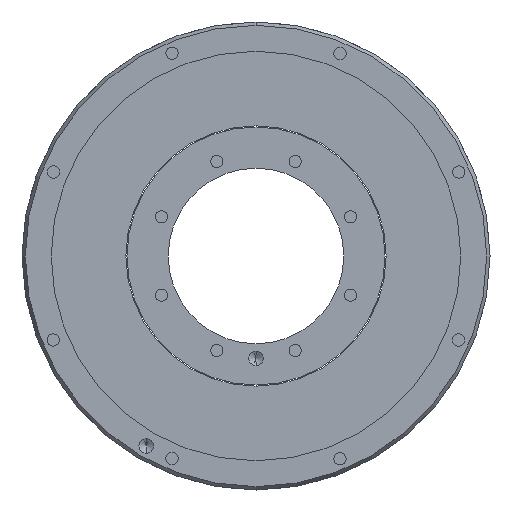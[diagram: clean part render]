
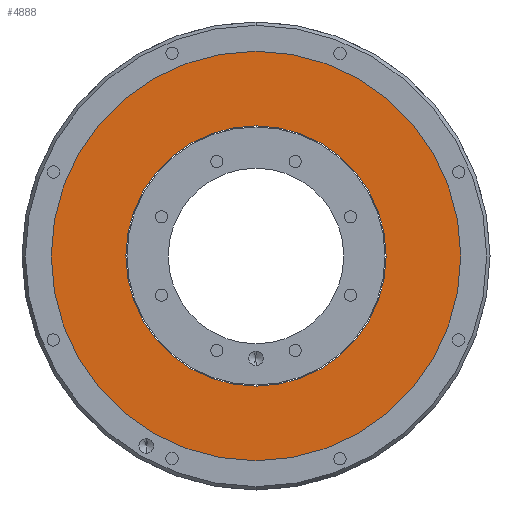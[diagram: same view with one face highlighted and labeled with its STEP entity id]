
A CAD part, front view. The second image highlights one B-rep face of the part: STEP entity #4888.
In plain terms, the highlighted planar face has unit normal (0, -1, 0).
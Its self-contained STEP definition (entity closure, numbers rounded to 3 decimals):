
#112 = PLANE ( 'NONE',  #553 ) ;
#293 = DIRECTION ( 'NONE',  ( 0., 0., -1. ) ) ;
#389 = CARTESIAN_POINT ( 'NONE',  ( 0., 1., 0. ) ) ;
#439 = DIRECTION ( 'NONE',  ( 0., 0., -1. ) ) ;
#553 = AXIS2_PLACEMENT_3D ( 'NONE', #4488, #593, #5341 ) ;
#568 = CIRCLE ( 'NONE', #4262, 70. ) ;
#593 = DIRECTION ( 'NONE',  ( 0., -1., 0. ) ) ;
#905 = CIRCLE ( 'NONE', #5417, 44.5 ) ;
#926 = CARTESIAN_POINT ( 'NONE',  ( 0., 1., 70. ) ) ;
#986 = ORIENTED_EDGE ( 'NONE', *, *, #2425, .F. ) ;
#1067 = VERTEX_POINT ( 'NONE', #3036 ) ;
#1254 = CARTESIAN_POINT ( 'NONE',  ( 0., 1., 0. ) ) ;
#1401 = DIRECTION ( 'NONE',  ( 0., -1., 0. ) ) ;
#1496 = ORIENTED_EDGE ( 'NONE', *, *, #4047, .T. ) ;
#1572 = CIRCLE ( 'NONE', #2436, 70. ) ;
#1593 = VERTEX_POINT ( 'NONE', #926 ) ;
#1823 = EDGE_CURVE ( 'NONE', #1067, #1593, #1572, .T. ) ;
#1909 = ORIENTED_EDGE ( 'NONE', *, *, #1823, .T. ) ;
#1981 = CARTESIAN_POINT ( 'NONE',  ( 0., 1., 0. ) ) ;
#2071 = DIRECTION ( 'NONE',  ( 0., 0., -1. ) ) ;
#2097 = FACE_OUTER_BOUND ( 'NONE', #5606, .T. ) ;
#2207 = VERTEX_POINT ( 'NONE', #3299 ) ;
#2232 = CARTESIAN_POINT ( 'NONE',  ( 0., 1., 44.5 ) ) ;
#2425 = EDGE_CURVE ( 'NONE', #4071, #2207, #905, .T. ) ;
#2436 = AXIS2_PLACEMENT_3D ( 'NONE', #1254, #2563, #439 ) ;
#2563 = DIRECTION ( 'NONE',  ( 0., -1., 0. ) ) ;
#2641 = FACE_BOUND ( 'NONE', #4054, .T. ) ;
#3036 = CARTESIAN_POINT ( 'NONE',  ( 0., 1., -70. ) ) ;
#3188 = ORIENTED_EDGE ( 'NONE', *, *, #3422, .F. ) ;
#3265 = DIRECTION ( 'NONE',  ( 0., -1., 0. ) ) ;
#3299 = CARTESIAN_POINT ( 'NONE',  ( 0., 1., -44.5 ) ) ;
#3422 = EDGE_CURVE ( 'NONE', #2207, #4071, #5621, .T. ) ;
#3871 = DIRECTION ( 'NONE',  ( 0., -1., 0. ) ) ;
#4010 = CARTESIAN_POINT ( 'NONE',  ( 0., 1., 0. ) ) ;
#4047 = EDGE_CURVE ( 'NONE', #1593, #1067, #568, .T. ) ;
#4054 = EDGE_LOOP ( 'NONE', ( #3188, #986 ) ) ;
#4071 = VERTEX_POINT ( 'NONE', #2232 ) ;
#4262 = AXIS2_PLACEMENT_3D ( 'NONE', #389, #3871, #2071 ) ;
#4451 = DIRECTION ( 'NONE',  ( 0., 0., -1. ) ) ;
#4488 = CARTESIAN_POINT ( 'NONE',  ( 44.5, 1., 0. ) ) ;
#4872 = AXIS2_PLACEMENT_3D ( 'NONE', #1981, #3265, #293 ) ;
#4888 = ADVANCED_FACE ( 'NONE', ( #2097, #2641 ), #112, .T. ) ;
#5341 = DIRECTION ( 'NONE',  ( 0., 0., -1. ) ) ;
#5417 = AXIS2_PLACEMENT_3D ( 'NONE', #4010, #1401, #4451 ) ;
#5606 = EDGE_LOOP ( 'NONE', ( #1909, #1496 ) ) ;
#5621 = CIRCLE ( 'NONE', #4872, 44.5 ) ;
